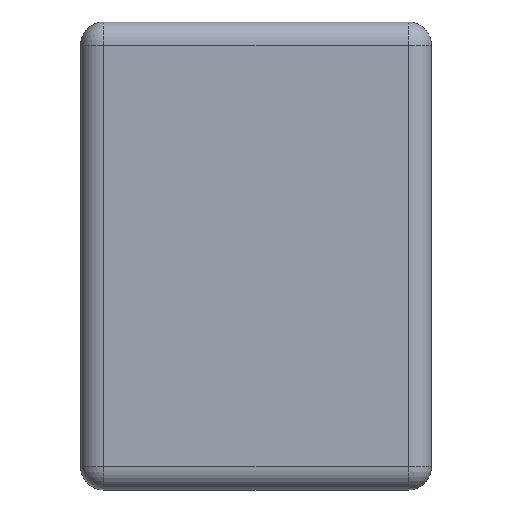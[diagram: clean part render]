
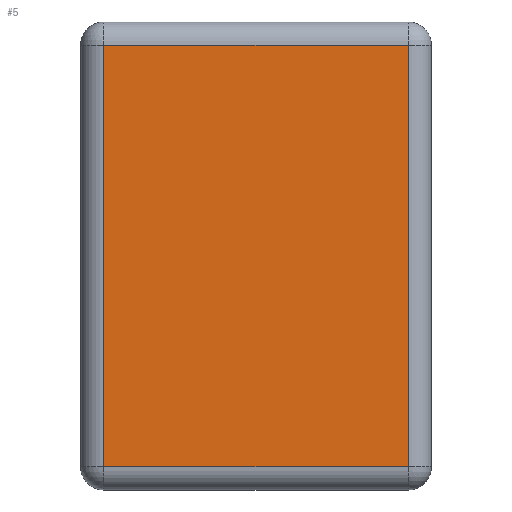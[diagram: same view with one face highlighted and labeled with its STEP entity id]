
A CAD part, top view. The second image highlights one B-rep face of the part: STEP entity #5.
In plain terms, the highlighted planar face has unit normal (0, 0, 1).
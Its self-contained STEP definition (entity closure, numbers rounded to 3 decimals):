
#5 = ADVANCED_FACE ( 'NONE', ( #470 ), #680, .T. ) ;
#19 = ORIENTED_EDGE ( 'NONE', *, *, #307, .T. ) ;
#25 = DIRECTION ( 'NONE',  ( 1., 0., 0. ) ) ;
#49 = LINE ( 'NONE', #277, #89 ) ;
#56 = VECTOR ( 'NONE', #201, 1000. ) ;
#67 = ORIENTED_EDGE ( 'NONE', *, *, #106, .T. ) ;
#89 = VECTOR ( 'NONE', #496, 1000. ) ;
#90 = AXIS2_PLACEMENT_3D ( 'NONE', #143, #262, #25 ) ;
#106 = EDGE_CURVE ( 'NONE', #590, #118, #666, .T. ) ;
#118 = VERTEX_POINT ( 'NONE', #650 ) ;
#121 = LINE ( 'NONE', #343, #251 ) ;
#143 = CARTESIAN_POINT ( 'NONE',  ( 19.5, 27., 3. ) ) ;
#149 = VERTEX_POINT ( 'NONE', #381 ) ;
#168 = VERTEX_POINT ( 'NONE', #654 ) ;
#201 = DIRECTION ( 'NONE',  ( 0., 1., 0. ) ) ;
#202 = EDGE_CURVE ( 'NONE', #118, #149, #49, .T. ) ;
#243 = EDGE_LOOP ( 'NONE', ( #67, #417, #19, #642 ) ) ;
#251 = VECTOR ( 'NONE', #561, 1000. ) ;
#262 = DIRECTION ( 'NONE',  ( 0., 0., 1. ) ) ;
#277 = CARTESIAN_POINT ( 'NONE',  ( -19.5, 27., 3. ) ) ;
#307 = EDGE_CURVE ( 'NONE', #149, #168, #121, .T. ) ;
#343 = CARTESIAN_POINT ( 'NONE',  ( -19.5, -27., 3. ) ) ;
#377 = VECTOR ( 'NONE', #730, 1000. ) ;
#380 = LINE ( 'NONE', #533, #377 ) ;
#381 = CARTESIAN_POINT ( 'NONE',  ( -19.5, 27., 3. ) ) ;
#417 = ORIENTED_EDGE ( 'NONE', *, *, #202, .T. ) ;
#432 = CARTESIAN_POINT ( 'NONE',  ( 19.5, 27., 3. ) ) ;
#470 = FACE_OUTER_BOUND ( 'NONE', #243, .T. ) ;
#496 = DIRECTION ( 'NONE',  ( -1., 0., 0. ) ) ;
#533 = CARTESIAN_POINT ( 'NONE',  ( 19.5, -27., 3. ) ) ;
#561 = DIRECTION ( 'NONE',  ( 0., -1., 0. ) ) ;
#589 = EDGE_CURVE ( 'NONE', #168, #590, #380, .T. ) ;
#590 = VERTEX_POINT ( 'NONE', #652 ) ;
#642 = ORIENTED_EDGE ( 'NONE', *, *, #589, .T. ) ;
#650 = CARTESIAN_POINT ( 'NONE',  ( 19.5, 27., 3. ) ) ;
#652 = CARTESIAN_POINT ( 'NONE',  ( 19.5, -27., 3. ) ) ;
#654 = CARTESIAN_POINT ( 'NONE',  ( -19.5, -27., 3. ) ) ;
#666 = LINE ( 'NONE', #432, #56 ) ;
#680 = PLANE ( 'NONE',  #90 ) ;
#730 = DIRECTION ( 'NONE',  ( 1., 0., 0. ) ) ;
